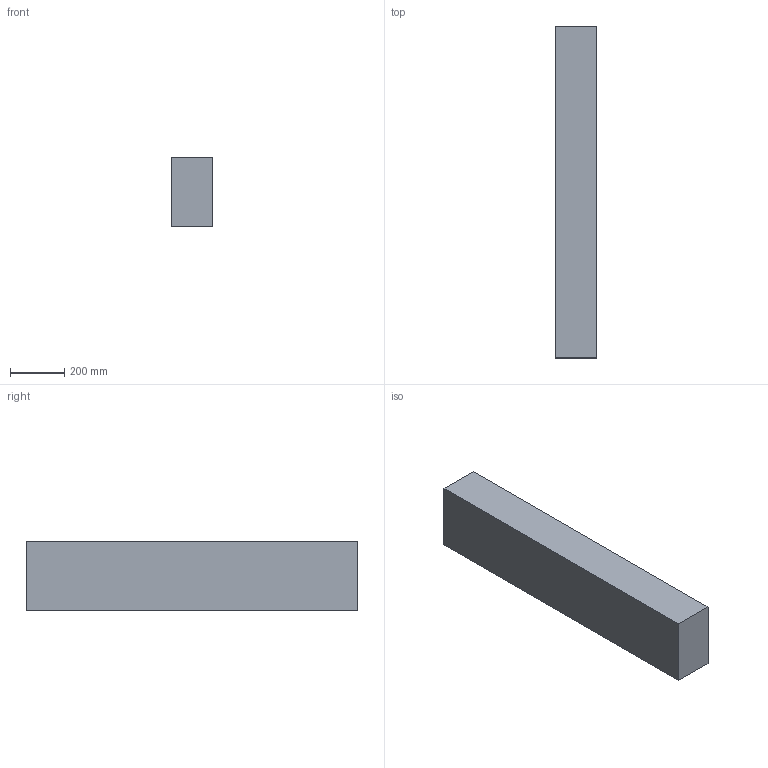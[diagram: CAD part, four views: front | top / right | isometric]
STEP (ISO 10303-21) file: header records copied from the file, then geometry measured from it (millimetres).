
FILE_DESCRIPTION(/* description */ (''),/* implementation_level */ '2;1');
FILE_NAME(/* name */ '6x10x48',/* time_stamp */ '2024-09-20T11:47:05-05:00',/* author */ (''),/* organization */ (''),/* preprocessor_version */ 'ST-DEVELOPER v19.2',/* originating_system */ 'Rhino 8.5',/* authorisation */ '');
FILE_SCHEMA (('CONFIG_CONTROL_DESIGN'));
Length unit declared in the file: inch
Products named in the file (1): Document
Bounding box: 152.4 x 1219.2 x 254 mm (x, y, z)
Volume: 47194744.3 mm3; surface area: 1068385 mm2
Topology: 1 solids, 1 shells, 6 faces, 12 edges, 8 vertices
Faces by surface type: plane 6
Entity records: 226 total; most frequent: CARTESIAN_POINT 40, ORIENTED_EDGE 24, EDGE_CURVE 12, B_SPLINE_CURVE_WITH_KNOTS 12, DIRECTION 10, VERTEX_POINT 8, AXIS2_PLACEMENT_3D 8, ORGANIZATION 7
